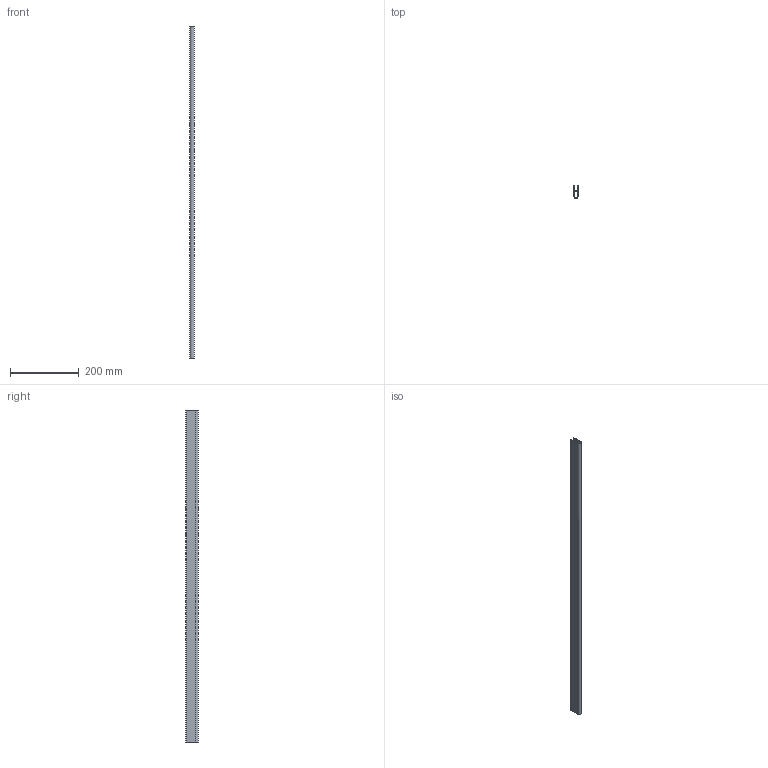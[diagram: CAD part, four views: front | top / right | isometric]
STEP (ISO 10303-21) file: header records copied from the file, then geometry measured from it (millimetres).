
FILE_DESCRIPTION (( 'STEP AP203' ), '1' );
FILE_NAME ('2000509 Leuchtenprofil Free.STEP', '2022-10-24T05:13:51', ( '' ), ( '' ), 'SwSTEP 2.0', 'SolidWorks 2021', '' );
FILE_SCHEMA (( 'CONFIG_CONTROL_DESIGN' ));
Length unit declared in the file: millimetre
Products named in the file (1): 2000509 Leuchtenprofil Free
Bounding box: 12 x 35 x 968 mm (x, y, z)
Volume: 97053.8 mm3; surface area: 164251.4 mm2
Topology: 1 solids, 1 shells, 47 faces, 135 edges, 90 vertices
Faces by surface type: plane 29, cylinder 18
Entity records: 1626 total; most frequent: CARTESIAN_POINT 273, ORIENTED_EDGE 270, DIRECTION 267, EDGE_CURVE 135, LINE 99, VECTOR 99, VERTEX_POINT 90, AXIS2_PLACEMENT_3D 84
